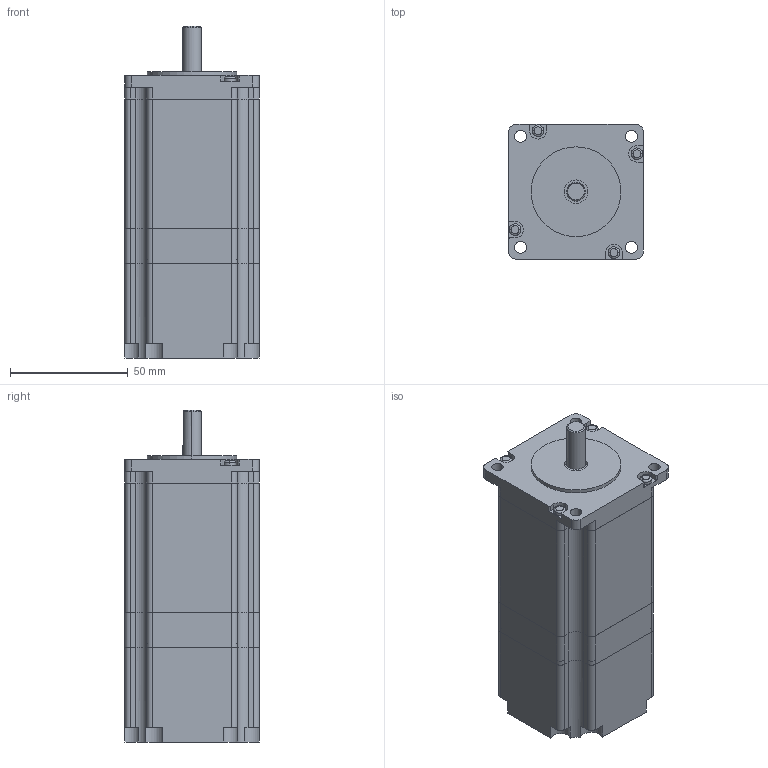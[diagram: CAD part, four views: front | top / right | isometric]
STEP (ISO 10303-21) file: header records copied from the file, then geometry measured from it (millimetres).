
FILE_DESCRIPTION (( 'STEP AP203' ), '1' );
FILE_NAME ('57HSB21A.STEP', '2018-07-09T06:48:24', ( 'Microsoft' ), ( 'China' ), 'SwSTEP 2.0', 'SolidWorks 2011', '' );
FILE_SCHEMA (( 'CONFIG_CONTROL_DESIGN' ));
Length unit declared in the file: millimetre
Products named in the file (1): 57HSB21A
Bounding box: 57.15 x 57.15 x 140.91 mm (x, y, z)
Volume: 348692.1 mm3; surface area: 43149.8 mm2
Topology: 3 solids, 3 shells, 258 faces, 687 edges, 453 vertices
Faces by surface type: cylinder 141, plane 102, torus 10, cone 5
Entity records: 8285 total; most frequent: DIRECTION 1528, CARTESIAN_POINT 1411, ORIENTED_EDGE 1374, EDGE_CURVE 687, AXIS2_PLACEMENT_3D 584, VERTEX_POINT 453, VECTOR 360, LINE 360
